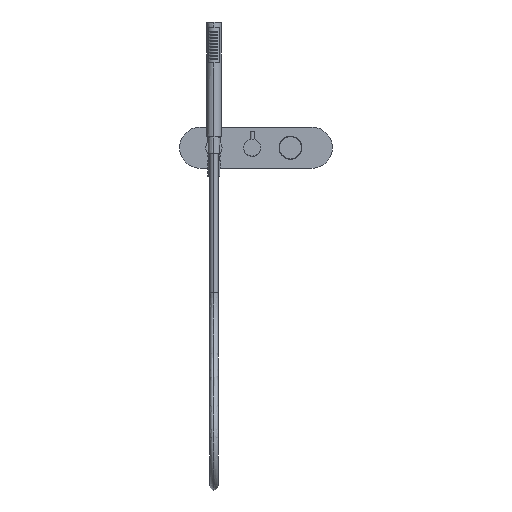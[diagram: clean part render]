
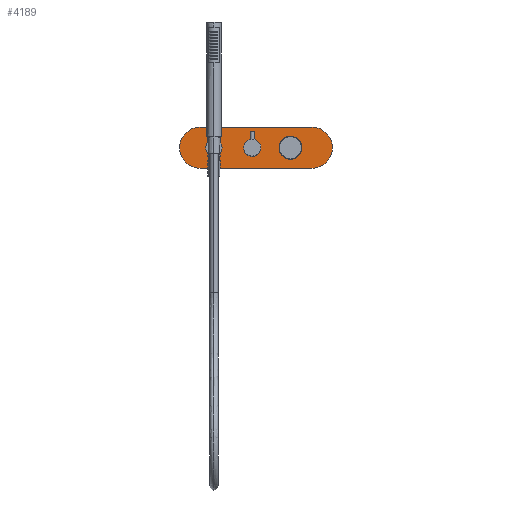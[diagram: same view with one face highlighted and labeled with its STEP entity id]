
A CAD part, top view. The second image highlights one B-rep face of the part: STEP entity #4189.
In plain terms, the highlighted planar face has unit normal (0, 0, 1).
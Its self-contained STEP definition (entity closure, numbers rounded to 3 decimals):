
#4072=DIRECTION('',(-1.,0.,0.));
#4073=VECTOR('',#4072,205.);
#4074=CARTESIAN_POINT('',(109.5,37.5,15.5));
#4075=LINE('',#4074,#4073);
#4076=CARTESIAN_POINT('',(109.5,0.,15.5));
#4077=DIRECTION('',(0.,0.,1.));
#4078=DIRECTION('',(0.,-1.,0.));
#4079=AXIS2_PLACEMENT_3D('',#4076,#4077,#4078);
#4081=DIRECTION('',(1.,0.,0.));
#4082=VECTOR('',#4081,205.);
#4083=CARTESIAN_POINT('',(-95.5,-37.5,15.5));
#4084=LINE('',#4083,#4082);
#4085=CARTESIAN_POINT('',(-95.5,0.,15.5));
#4086=DIRECTION('',(0.,0.,1.));
#4087=DIRECTION('',(0.,1.,0.));
#4088=AXIS2_PLACEMENT_3D('',#4085,#4086,#4087);
#4098=CARTESIAN_POINT('',(109.5,37.5,15.5));
#4099=CARTESIAN_POINT('',(-95.5,37.5,15.5));
#4100=VERTEX_POINT('',#4098);
#4101=VERTEX_POINT('',#4099);
#4102=CARTESIAN_POINT('',(-95.5,-37.5,15.5));
#4103=VERTEX_POINT('',#4102);
#4104=CARTESIAN_POINT('',(109.5,-37.5,15.5));
#4105=VERTEX_POINT('',#4104);
#4178=CARTESIAN_POINT('',(7.,0.,15.5));
#4179=DIRECTION('',(0.,0.,1.));
#4180=DIRECTION('',(-1.,0.,0.));
#4181=AXIS2_PLACEMENT_3D('',#4178,#4179,#4180);
#4182=PLANE('',#4181);
#4183=ORIENTED_EDGE('',*,*,#4130,.F.);
#4184=ORIENTED_EDGE('',*,*,#4145,.F.);
#4185=ORIENTED_EDGE('',*,*,#4159,.F.);
#4186=ORIENTED_EDGE('',*,*,#4172,.F.);
#4187=EDGE_LOOP('',(#4183,#4184,#4185,#4186));
#4188=FACE_OUTER_BOUND('',#4187,.F.);
#4189=ADVANCED_FACE('',(#4188),#4182,.T.);
#4080=CIRCLE('',#4079,37.5);
#4089=CIRCLE('',#4088,37.5);
#4130=EDGE_CURVE('',#4100,#4101,#4075,.T.);
#4145=EDGE_CURVE('',#4105,#4100,#4080,.T.);
#4159=EDGE_CURVE('',#4103,#4105,#4084,.T.);
#4172=EDGE_CURVE('',#4101,#4103,#4089,.T.);
